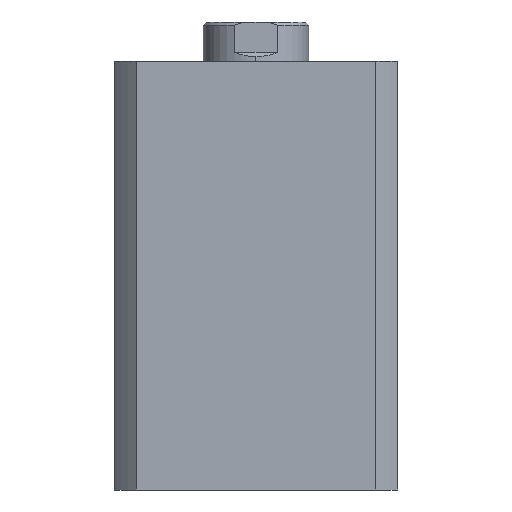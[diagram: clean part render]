
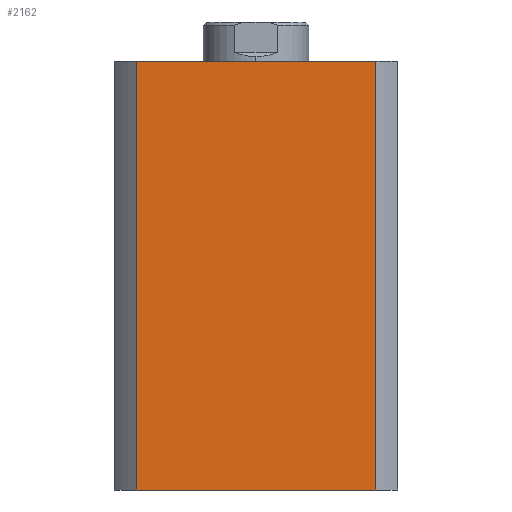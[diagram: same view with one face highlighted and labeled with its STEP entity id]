
A CAD part, left-side view. The second image highlights one B-rep face of the part: STEP entity #2162.
In plain terms, the highlighted planar face has unit normal (-1, 0, 0).
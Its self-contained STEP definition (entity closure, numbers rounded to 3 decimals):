
#420 = CARTESIAN_POINT ( 'NONE',  ( -47., -39.664, 0. ) ) ;
#421 = CARTESIAN_POINT ( 'NONE',  ( -47., 39.664, 0. ) ) ;
#446 = CARTESIAN_POINT ( 'NONE',  ( -47., 39.664, 142. ) ) ;
#457 = CARTESIAN_POINT ( 'NONE',  ( -47., -39.664, 142. ) ) ;
#515 = CARTESIAN_POINT ( 'NONE',  ( -47., 0., 142. ) ) ;
#520 = PLANE ( 'NONE',  #3680 ) ;
#523 = DIRECTION ( 'NONE',  ( 1., 0., 0. ) ) ;
#524 = DIRECTION ( 'NONE',  ( 0., 0., -1. ) ) ;
#658 = EDGE_LOOP ( 'NONE', ( #4907, #4908, #4909, #4910 ) ) ;
#802 = LINE ( 'NONE', #4121, #804 ) ;
#804 = VECTOR ( 'NONE', #4116, 1000. ) ;
#842 = LINE ( 'NONE', #4151, #848 ) ;
#844 = LINE ( 'NONE', #1096, #846 ) ;
#846 = VECTOR ( 'NONE', #1089, 1000. ) ;
#847 = LINE ( 'NONE', #4157, #850 ) ;
#848 = VECTOR ( 'NONE', #4156, 1000. ) ;
#850 = VECTOR ( 'NONE', #4159, 1000. ) ;
#1089 = DIRECTION ( 'NONE',  ( 0., 0., -1. ) ) ;
#1096 = CARTESIAN_POINT ( 'NONE',  ( -47., 39.664, 142. ) ) ;
#1693 = EDGE_CURVE ( 'NONE', #2604, #2615, #802, .T. ) ;
#1726 = EDGE_CURVE ( 'NONE', #2604, #2582, #844, .T. ) ;
#1727 = EDGE_CURVE ( 'NONE', #2582, #2593, #842, .T. ) ;
#1728 = EDGE_CURVE ( 'NONE', #2615, #2593, #847, .T. ) ;
#2162 = ADVANCED_FACE ( 'NONE', ( #3987 ), #520, .F. ) ;
#2582 = VERTEX_POINT ( 'NONE', #421 ) ;
#2593 = VERTEX_POINT ( 'NONE', #420 ) ;
#2604 = VERTEX_POINT ( 'NONE', #446 ) ;
#2615 = VERTEX_POINT ( 'NONE', #457 ) ;
#3680 = AXIS2_PLACEMENT_3D ( 'NONE', #515, #523, #524 ) ;
#3987 = FACE_OUTER_BOUND ( 'NONE', #658, .T. ) ;
#4116 = DIRECTION ( 'NONE',  ( 0., -1., 0. ) ) ;
#4121 = CARTESIAN_POINT ( 'NONE',  ( -47., 0., 142. ) ) ;
#4151 = CARTESIAN_POINT ( 'NONE',  ( -47., 0., 0. ) ) ;
#4156 = DIRECTION ( 'NONE',  ( 0., -1., 0. ) ) ;
#4157 = CARTESIAN_POINT ( 'NONE',  ( -47., -39.664, 142. ) ) ;
#4159 = DIRECTION ( 'NONE',  ( 0., 0., -1. ) ) ;
#4907 = ORIENTED_EDGE ( 'NONE', *, *, #1727, .T. ) ;
#4908 = ORIENTED_EDGE ( 'NONE', *, *, #1728, .F. ) ;
#4909 = ORIENTED_EDGE ( 'NONE', *, *, #1693, .F. ) ;
#4910 = ORIENTED_EDGE ( 'NONE', *, *, #1726, .T. ) ;
